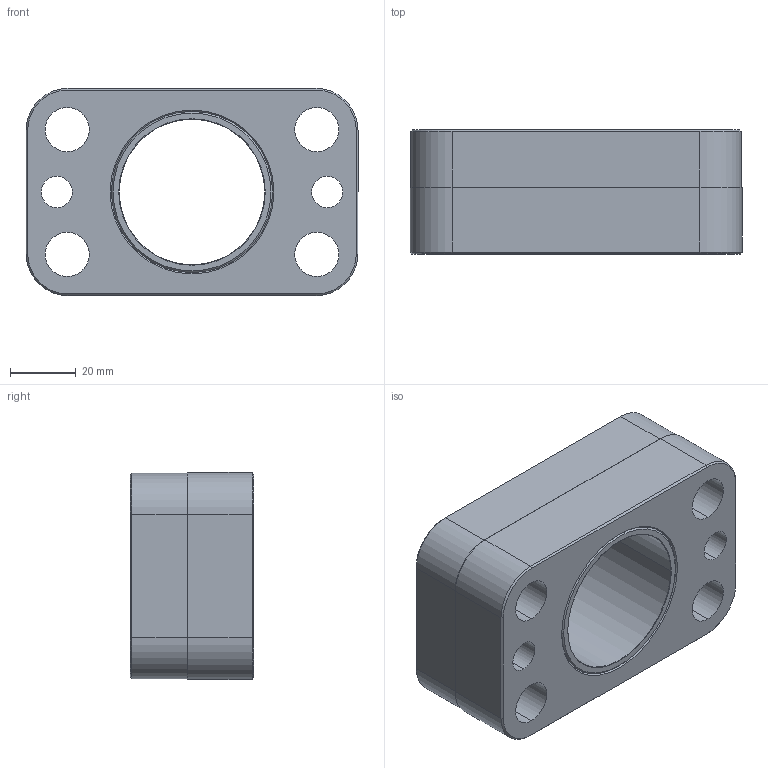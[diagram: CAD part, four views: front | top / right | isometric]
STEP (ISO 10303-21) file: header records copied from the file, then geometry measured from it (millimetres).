
FILE_DESCRIPTION (( 'STEP AP214' ), '1' );
FILE_NAME ('GK175-A-E-Base.STEP', '2010-11-16T13:25:51', ( ' ' ), ( '' ), 'SwSTEP 2.0', 'SolidWorks 2010', '' );
FILE_SCHEMA (( 'AUTOMOTIVE_DESIGN' ));
Length unit declared in the file: inch
Products named in the file (3): Base-GK175-A_Base-GK175-A-E-NoText; GK175-A-E-Base; Bushing-BU-1.75ID-1.485Long_Bushing-BU-1.75ID-1.485Long
Assembly tree (2 placements, depth 2):
  GK175-A-E-Base
    Base-GK175-A_Base-GK175-A-E-NoText
    Bushing-BU-1.75ID-1.485Long_Bushing-BU-1.75ID-1.485Long
Bounding box: 101.35 x 37.85 x 63.25 mm (x, y, z)
Volume: 138404.7 mm3; surface area: 46215.8 mm2
Topology: 2 solids, 2 shells, 91 faces, 206 edges, 124 vertices
Faces by surface type: cylinder 38, cone 28, plane 25
Entity records: 2800 total; most frequent: DIRECTION 498, CARTESIAN_POINT 426, ORIENTED_EDGE 412, EDGE_CURVE 206, AXIS2_PLACEMENT_3D 196, VERTEX_POINT 124, EDGE_LOOP 112, VECTOR 106
